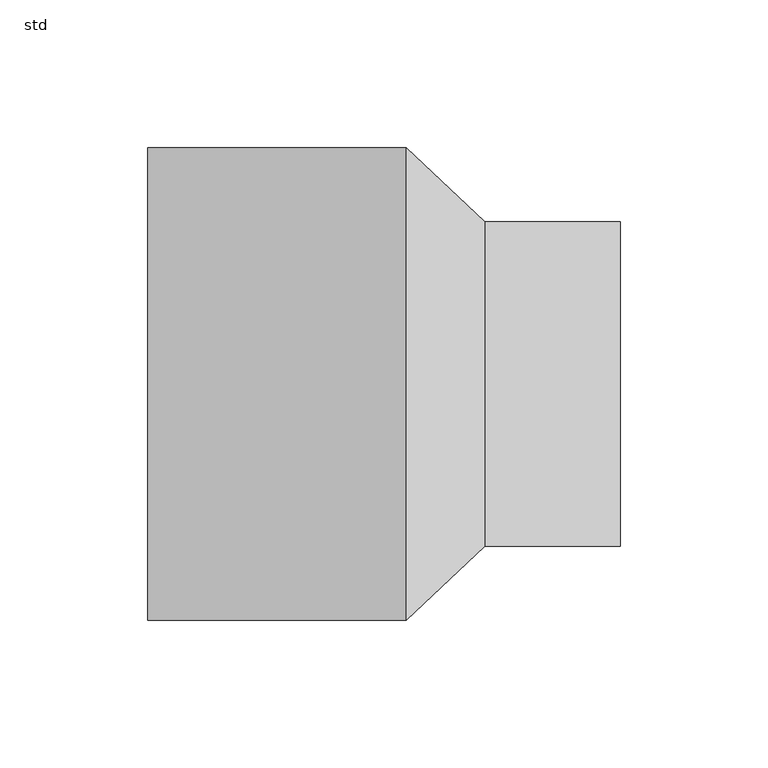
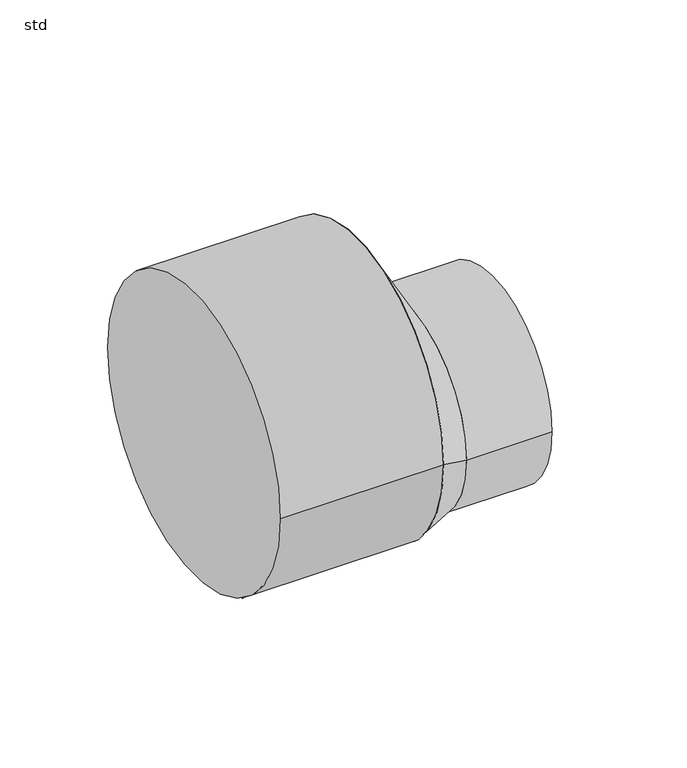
"""IFC4 building model written with IfcOpenShell, lengths in millimetres: pipe fitting geometry, ZZZ_do not use_PIF_ST_UN_ACO pipe increaser coupling_ACO : std."""

from ifc_helpers import new_model, si_unit, point, frame, frame_2d, origin, origin_2d, place, context, project, spatial, circle_curve, trimmed, segment, composite_curve, outline, extrude, source, transform, mapped, element, save
from ifc_brep_helpers import plane_surface, spline_surface, advanced_brep


def std_806a320d(model_context):
    return source(origin(), model_context, "Body", "SolidModel", [
        advanced_brep(
        [(34.1666667, -55.0, -22.0), (34.1666667, 55.0, -22.0), (7.5, -80.0, 0.0), (7.5, 80.0, 0.0)],
        [
            (0, 1, circle_curve(frame((34.1666667, 0.0, -22.0), z_axis=(1.0, 0.0, 0.0), x_axis=(0.0, 1.0, 0.0)), 55.0)),
            (1, 0, circle_curve(frame((34.1666667, 0.0, -22.0), z_axis=(1.0, 0.0, 0.0), x_axis=(0.0, 1.0, 0.0)), 55.0)),
            (2, 3, circle_curve(frame((7.5, 0.0, 0.0), z_axis=(-1.0, 0.0, 0.0), x_axis=(0.0, 1.0, 0.0)), 80.0)),
            (3, 2, circle_curve(frame((7.5, 0.0, 0.0), z_axis=(-1.0, 0.0, 0.0), x_axis=(0.0, 1.0, 0.0)), 80.0)),
            (3, 1),
            (0, 2),
        ],
        [
            plane_surface(frame((34.1666667, 0.0, -22.0), z_axis=(1.0, 0.0, 0.0), x_axis=(0.0, 0.0, -1.0))),
            plane_surface(frame((7.5, 0.0, 0.0), z_axis=(-1.0, 0.0, 0.0), x_axis=(0.0, 0.0, -1.0))),
            spline_surface(2, 1, [[(7.5, -80.0, 0.0), (34.1666667, -55.0, -22.0)], [(7.5, -80.0, -80.0), (34.1666667, -55.0, -77.0)], [(7.5, 0.0, -80.0), (34.1666667, 0.0, -77.0)], [(7.5, 80.0, -80.0), (34.1666667, 55.0, -77.0)], [(7.5, 80.0, 0.0), (34.1666667, 55.0, -22.0)]], [3, 2, 3], [2, 2], [0.0, 1.0, 2.0], [0.0, 1.0], weights=[[1.0, 1.0], [0.7071067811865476, 0.7071067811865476], [1.0, 1.0], [0.7071067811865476, 0.7071067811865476], [1.0, 1.0]]),
            spline_surface(2, 1, [[(7.5, 80.0, 0.0), (34.1666667, 55.0, -22.0)], [(7.5, 80.0, 80.0), (34.1666667, 55.0, 33.0)], [(7.5, 0.0, 80.0), (34.1666667, 0.0, 33.0)], [(7.5, -80.0, 80.0), (34.1666667, -55.0, 33.0)], [(7.5, -80.0, 0.0), (34.1666667, -55.0, -22.0)]], [3, 2, 3], [2, 2], [0.0, 1.0, 2.0], [0.0, 1.0], weights=[[1.0, 1.0], [0.7071067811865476, 0.7071067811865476], [1.0, 1.0], [0.7071067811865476, 0.7071067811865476], [1.0, 1.0]]),
        ],
        [
            (0, [[1, 2]]),
            (1, [[3, 4]]),
            (2, [[-4, 5, -1, 6]]),
            (3, [[-3, -6, -2, -5]]),
        ],
    ),
        extrude(outline(composite_curve([segment(trimmed(circle_curve(frame_2d((0.0, -22.0)), 55.0), [point((55.0, -22.0))], [point((-55.0, -22.0))], False, "CARTESIAN"), True, "CONTINUOUS"), segment(trimmed(circle_curve(frame_2d((0.0, -22.0)), 55.0), [point((-55.0, -22.0))], [point((55.0, -22.0))], False, "CARTESIAN"), True, "CONTINUOUS")], self_intersect=False)), frame((34.1666667, 0.0, 0.0), z_axis=(1.0, 0.0, 0.0), x_axis=(0.0, 1.0, 0.0)), (0.0, 0.0, 1.0), 45.8333333),
        extrude(outline(composite_curve([segment(trimmed(circle_curve(origin_2d(), 80.0), [point((-80.0, 0.0))], [point((80.0, 0.0))], False, "CARTESIAN"), True, "CONTINUOUS"), segment(trimmed(circle_curve(origin_2d(), 80.0), [point((80.0, 0.0))], [point((-80.0, 0.0))], False, "CARTESIAN"), True, "CONTINUOUS")], self_intersect=False)), frame((-80.0, 0.0, 0.0), z_axis=(1.0, 0.0, 0.0), x_axis=(0.0, 1.0, 0.0)), (0.0, 0.0, 1.0), 87.5),
    ])


if __name__ == "__main__":
    model = new_model("IFC4")
    model_context = context("Model", 3, world=origin())
    ifc_project = project(units=[si_unit("LENGTHUNIT", "METRE", prefix="MILLI")], contexts=[model_context])
    site = spatial("IfcSite", under=ifc_project)
    building = spatial("IfcBuilding", under=site)
    placement = place(None, origin())
    std_shape = std_806a320d(model_context)
    element("IfcPipeFitting", 1, ObjectType="ZZZ_do not use_PIF_ST_UN_ACO pipe increaser coupling_ACO : std", at=placement, inside=building, context=model_context, shape_type="MappedRepresentation", body=[
        mapped(std_shape, transform((0.0, 0.0, 0.0), x_axis=(1.0, 0.0, 0.0), y_axis=(0.0, 1.0, 0.0), z_axis=(0.0, 0.0, 1.0))),
    ])
    save(model, "model.ifc")
